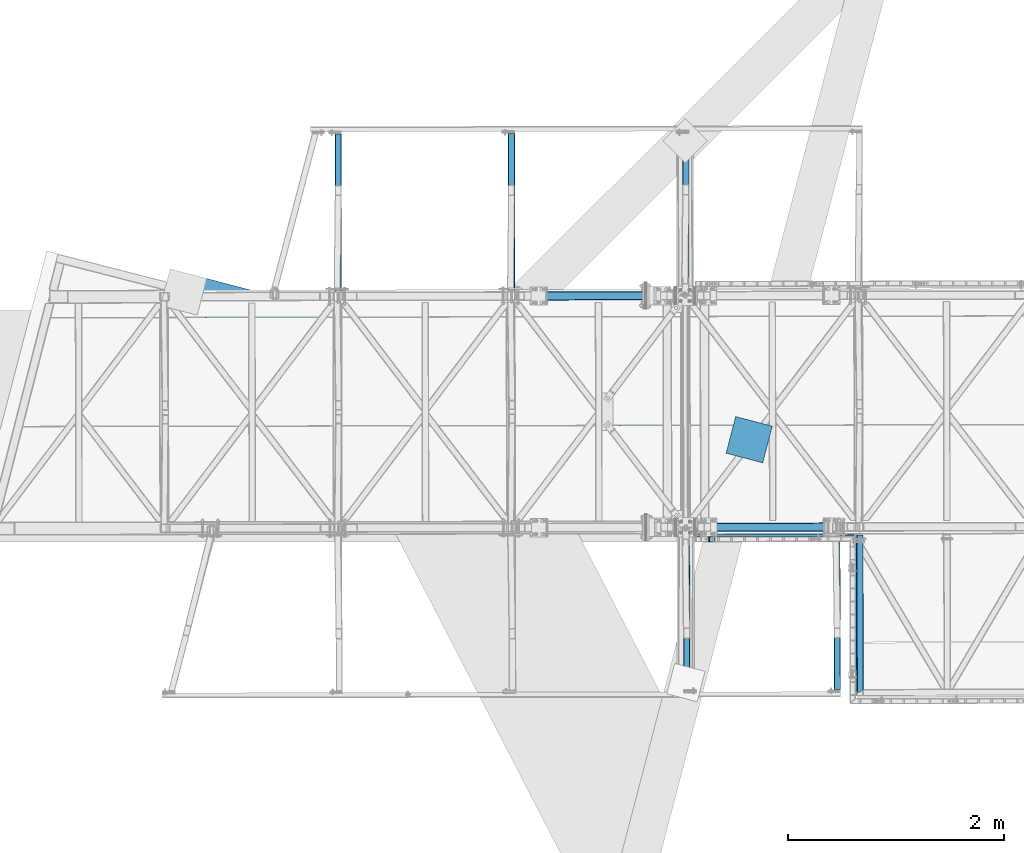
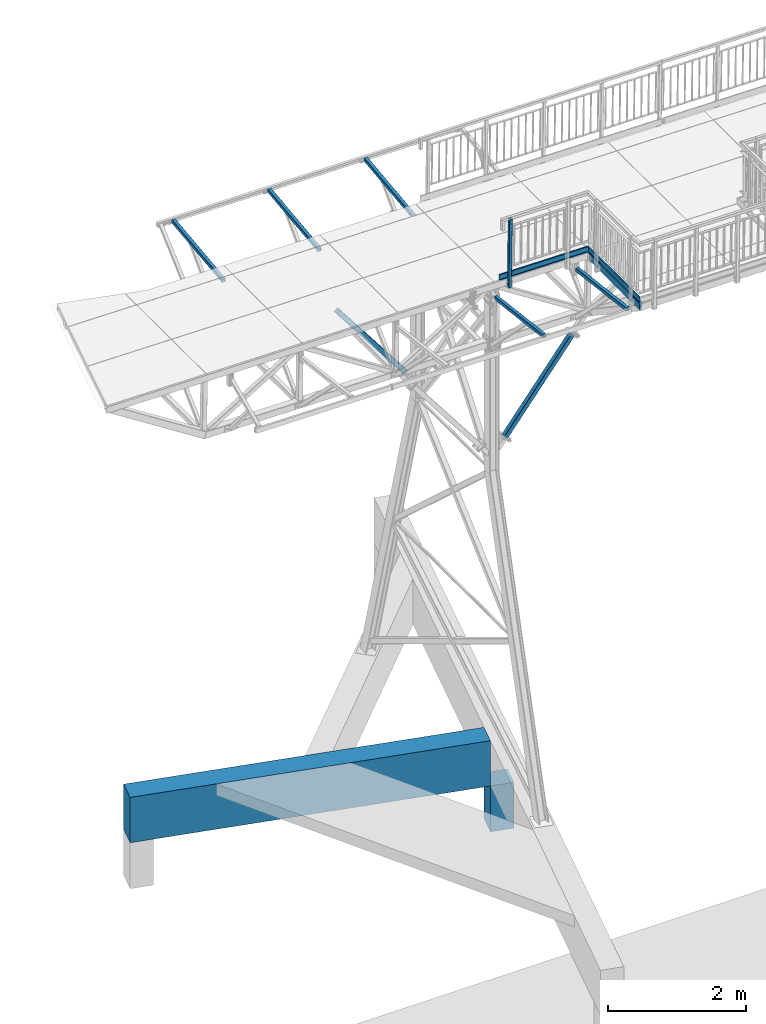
# One storey, part 16 of 169: 10 beams, 3 members, 13 elements without a shape of their own.
"""IFC2X3 building model written with IfcOpenShell, lengths in millimetres."""

from ifc_helpers import new_model, si_unit, frame, origin_with_axes, origin_2d_with_axis, place, context, subcontext, project, spatial, polyline, rectangle, hollow_rectangle, u_section, outline, extrude, boolean, clip, halfspace, material, type_object, element, aggregate, save


model = new_model("IFC2X3")

# Units and contexts
model_context = context("Model", 3, precision=1e-05, world=origin_with_axes())
body_context = subcontext(model_context, "Body", "Model", "MODEL_VIEW")
ifc_project = project(units=[si_unit("LENGTHUNIT", "METRE", prefix="MILLI"), si_unit("AREAUNIT", "SQUARE_METRE"), si_unit("VOLUMEUNIT", "CUBIC_METRE"), si_unit("MASSUNIT", "GRAM", prefix="KILO"), si_unit("TIMEUNIT", "SECOND"), si_unit("PLANEANGLEUNIT", "RADIAN"), si_unit("SOLIDANGLEUNIT", "STERADIAN"), si_unit("THERMODYNAMICTEMPERATUREUNIT", "DEGREE_CELSIUS"), si_unit("LUMINOUSINTENSITYUNIT", "LUMEN")], contexts=[model_context])

# Site, building, storey
site_placement = place(None, origin_with_axes())
site = spatial("IfcSite", under=ifc_project, at=site_placement, Name="Undefined", CompositionType="ELEMENT")
building_placement = place(site_placement, origin_with_axes())
building = spatial("IfcBuilding", under=site, at=building_placement, Name="Undefined", CompositionType="ELEMENT")
storey_placement = place(building_placement, origin_with_axes())
storey = spatial("IfcBuildingStorey", under=building, at=storey_placement, Name="Undefined", CompositionType="ELEMENT", Elevation=0.0)

# Assembly, beam
assembly_1_placement = place(storey_placement, origin_with_axes())
assembly_1 = element("IfcElementAssembly", 1, at=assembly_1_placement, inside=storey, Name="Steel Assembly", AssemblyPlace="NOTDEFINED", PredefinedType="RIGID_FRAME")
ifc_material_1 = material(Name="STEEL/S235JR")
beam_type_1 = type_object("IfcBeamType", Name="C100*20*2", PredefinedType="NOTDEFINED")
beam_1_placement = place(assembly_1_placement, frame((6207.24182146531, 41.5896078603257, 14015.3656210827), z_axis=(0.012713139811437, 2.3750999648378e-05, 0.999919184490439), x_axis=(0.9999174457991, 0.00186469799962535, -0.0127131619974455)))
beam_1 = element("IfcBeam", 2, at=beam_1_placement, type_object=beam_type_1, material=ifc_material_1, Name="KICK_PLATE", ObjectType="C100*20*2", context=body_context, shape_type="CSG", body=[
    boolean("DIFFERENCE", extrude(u_section(Depth=100.0, FlangeWidth=20.0, WebThickness=2.0, FlangeThickness=2.0, FilletRadius=3.0, at=origin_2d_with_axis()), frame((1492.49990028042, -1.71020088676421e-16, 1.81898940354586e-12), z_axis=(-1.0, -3.46944695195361e-18, -1.38777878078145e-17), x_axis=(1.73472347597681e-18, -1.0, 0.0)), (0.0, 0.0, 1.0), 1492.5), extrude(outline(polyline([(0.0, 0.0), (24.9999999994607, -1.85351467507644e-09), (24.9999999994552, 17.9999999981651), (-0.102804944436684, 17.9999999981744), (0.0, 0.0)])), frame((1467.49990028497, -9.99999996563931, -52.9999999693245), z_axis=(0.0, 0.0, 1.0), x_axis=(1.0, 0.0, 0.0)), (0.0, 0.0, 1.0), 106.0)),
])
aggregate(assembly_1, [beam_1])

assembly_2_placement = place(storey_placement, origin_with_axes())
assembly_2 = element("IfcElementAssembly", 3, at=assembly_2_placement, inside=storey, Name="Steel Assembly", AssemblyPlace="NOTDEFINED", PredefinedType="RIGID_FRAME")
beam_2_placement = place(assembly_2_placement, frame((7689.61001089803, 49.3540156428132, 13996.5183592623), z_axis=(0.012713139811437, 2.3750999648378e-05, 0.999919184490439), x_axis=(0.00186484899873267, -0.999998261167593, 4.28757666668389e-08)))
beam_2 = element("IfcBeam", 4, at=beam_2_placement, type_object=beam_type_1, material=ifc_material_1, Name="KICK_PLATE", ObjectType="C100*20*2", context=body_context, shape_type="SweptSolid", body=[
    extrude(u_section(Depth=100.0, FlangeWidth=20.0, WebThickness=2.0, FlangeThickness=2.0, FilletRadius=3.0, at=origin_2d_with_axis()), frame((1489.9999999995, 1.38994933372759e-16, -2.16919843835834e-18), z_axis=(-1.0, -3.46944695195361e-18, -1.38777878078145e-17), x_axis=(1.73472347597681e-18, -1.0, 0.0)), (0.0, 0.0, 1.0), 1490.0),
])
aggregate(assembly_2, [beam_2])

# Assembly, member
assembly_3_placement = place(storey_placement, origin_with_axes())
assembly_3 = element("IfcElementAssembly", 5, at=assembly_3_placement, inside=storey, Name="Steel Assembly", AssemblyPlace="NOTDEFINED", PredefinedType="RIGID_FRAME")
ifc_material_2 = material(Name="STEEL/S235")
member_type_1 = type_object("IfcMemberType", Name="SHS50*3", PredefinedType="NOTDEFINED")
member_1_placement = place(assembly_3_placement, frame((6356.27765665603, 6.86747332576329, 13933.4651135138), z_axis=(0.00186484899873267, -0.999998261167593, 4.28757666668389e-08), x_axis=(0.012713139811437, 2.3750999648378e-05, 0.999919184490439)))
member_1 = element("IfcMember", 6, at=member_1_placement, type_object=member_type_1, material=ifc_material_2, Name="STANCHION", ObjectType="SHS50*3", context=body_context, shape_type="Clipping", body=[
    clip(extrude(hollow_rectangle(XDim=50.0, YDim=50.0, WallThickness=3.0, InnerFilletRadius=3.0, OuterFilletRadius=6.0, at=origin_2d_with_axis()), frame((1090.00000000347, 0.0, -8.86050580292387e-16), z_axis=(-1.0, -3.46944695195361e-18, -1.38777878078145e-17), x_axis=(1.73472347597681e-18, -1.0, 0.0)), (0.0, 0.0, 1.0), 1210.0), halfspace(frame((-120.000000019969, -1025.00000000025, -5.14306819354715e-10), z_axis=(1.0, 0.0, 0.0), x_axis=(0.0, 0.0, 1.0)), True)),
])
aggregate(assembly_3, [member_1])

# Assembly, beam
assembly_4_placement = place(storey_placement, origin_with_axes())
assembly_4 = element("IfcElementAssembly", 7, at=assembly_4_placement, inside=storey, Name="Steel Assembly", AssemblyPlace="NOTDEFINED", PredefinedType="RIGID_FRAME")
ifc_material_3 = material(Name="STEEL/S355")
beam_type_2 = type_object("IfcBeamType", Name="SHS60*3", PredefinedType="NOTDEFINED")
beam_3_placement = place(assembly_4_placement, frame((6130.44044154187, 3.26926882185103, 13709.8379328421), z_axis=(-0.999917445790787, -0.00186469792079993, 0.0127131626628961), x_axis=(0.00334696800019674, -0.99305658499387, 0.117590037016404)))
beam_3 = element("IfcBeam", 8, at=beam_3_placement, type_object=beam_type_2, material=ifc_material_3, Name="BEAM", ObjectType="SHS60*3", context=body_context, shape_type="Clipping", body=[
    clip(clip(extrude(hollow_rectangle(XDim=60.0, YDim=60.0, WallThickness=3.0, InnerFilletRadius=3.0, OuterFilletRadius=6.0, at=origin_2d_with_axis()), frame((1399.95678614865, 1.79956110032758e-12, -3.03567237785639e-16), z_axis=(-1.0, -3.46944695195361e-18, -1.38777878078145e-17), x_axis=(1.73472347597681e-18, -1.0, 0.0)), (0.0, 0.0, 1.0), 1414.04), halfspace(frame((1399.95678614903, -30.0000000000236, -9.84437065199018e-09), z_axis=(-1.0, -3.46944695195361e-18, -1.38777878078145e-17), x_axis=(-2.54700353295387e-10, 0.0, -1.0)), True)), halfspace(frame((53.3139715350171, -30.0000003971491, 1.12529778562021e-06), z_axis=(0.74752907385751, 0.664229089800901, -8.48099297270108e-09), x_axis=(0.0, 0.0, 1.0)), True)),
])
aggregate(assembly_4, [beam_3])

assembly_5_placement = place(storey_placement, origin_with_axes())
assembly_5 = element("IfcElementAssembly", 9, at=assembly_5_placement, inside=storey, Name="Steel Assembly", AssemblyPlace="NOTDEFINED", PredefinedType="RIGID_FRAME")
beam_4_placement = place(assembly_5_placement, frame((7520.57249629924, 75.5108316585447, 13683.8564424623), z_axis=(-0.999917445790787, -0.00186469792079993, 0.0127131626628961), x_axis=(0.00334696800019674, -0.99305658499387, 0.117590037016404)))
beam_4 = element("IfcBeam", 10, at=beam_4_placement, type_object=beam_type_2, material=ifc_material_3, Name="BEAM", ObjectType="SHS60*3", context=body_context, shape_type="Clipping", body=[
    clip(clip(extrude(hollow_rectangle(XDim=60.0, YDim=60.0, WallThickness=3.0, InnerFilletRadius=3.0, OuterFilletRadius=6.0, at=origin_2d_with_axis()), frame((1470.09918379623, 3.65838053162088e-12, 0.0), z_axis=(-1.0, -3.46944695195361e-18, -1.38777878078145e-17), x_axis=(1.73472347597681e-18, -1.0, 0.0)), (0.0, 0.0, 1.0), 1471.63), halfspace(frame((1470.10105978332, 29.9999999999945, 1.26819941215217e-08), z_axis=(-0.999999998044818, 6.25329077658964e-05, 1.2350028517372e-10), x_axis=(0.0, 0.0, 1.0)), True)), halfspace(frame((9.53820160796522, 7.09405867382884e-11, -29.9999999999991), z_axis=(0.993061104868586, -0.117599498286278, -1.22644835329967e-10), x_axis=(-0.117599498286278, -0.993061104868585, 2.09305653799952e-10)), True)),
])
aggregate(assembly_5, [beam_4])

assembly_6_placement = place(storey_placement, origin_with_axes())
assembly_6 = element("IfcElementAssembly", 11, at=assembly_6_placement, inside=storey, Name="Steel Assembly", AssemblyPlace="NOTDEFINED", PredefinedType="RIGID_FRAME")
beam_5_placement = place(assembly_6_placement, frame((6126.02754792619, 2369.61922608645, 13709.8378310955), z_axis=(-0.999917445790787, -0.00186469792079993, 0.0127131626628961), x_axis=(-0.000356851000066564, 0.993062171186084, 0.117589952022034)))
beam_5 = element("IfcBeam", 12, at=beam_5_placement, type_object=beam_type_2, material=ifc_material_3, Name="BEAM", ObjectType="SHS60*3", context=body_context, shape_type="Clipping", body=[
    clip(clip(extrude(hollow_rectangle(XDim=60.0, YDim=60.0, WallThickness=3.0, InnerFilletRadius=3.0, OuterFilletRadius=6.0, at=origin_2d_with_axis()), frame((1399.48040998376, -1.81898940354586e-12, 1.81898940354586e-12), z_axis=(-1.0, -3.46944695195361e-18, -1.38777878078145e-17), x_axis=(1.73472347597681e-18, -1.0, 0.0)), (0.0, 0.0, 1.0), 1413.38), halfspace(frame((1399.48040996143, 30.0000000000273, 9.09494701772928e-13), z_axis=(-1.0, -3.46944695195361e-18, -1.38777878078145e-17), x_axis=(0.0, 0.0, 1.0)), True)), halfspace(frame((53.3139715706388, 30.0000004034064, 1.12297948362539e-06), z_axis=(0.747529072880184, -0.664229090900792, -8.8414034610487e-09), x_axis=(-2.54700353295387e-10, 0.0, -1.0)), True)),
])
aggregate(assembly_6, [beam_5])

assembly_7_placement = place(storey_placement, origin_with_axes())
assembly_7 = element("IfcElementAssembly", 13, at=assembly_7_placement, inside=storey, Name="Steel Assembly", AssemblyPlace="NOTDEFINED", PredefinedType="RIGID_FRAME")
beam_6_placement = place(assembly_7_placement, frame((2913.80261067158, 2293.50002305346, 13742.3750006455), z_axis=(-0.999917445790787, -0.00186469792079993, 0.0127131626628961), x_axis=(-0.000356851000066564, 0.993062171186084, 0.117589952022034)))
beam_6 = element("IfcBeam", 14, at=beam_6_placement, type_object=beam_type_2, material=ifc_material_3, Name="BEAM", ObjectType="SHS60*3", context=body_context, shape_type="Clipping", body=[
    clip(clip(extrude(hollow_rectangle(XDim=60.0, YDim=60.0, WallThickness=3.0, InnerFilletRadius=3.0, OuterFilletRadius=6.0, at=origin_2d_with_axis()), frame((1470.09918379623, 3.65838053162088e-12, 0.0), z_axis=(-1.0, -3.46944695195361e-18, -1.38777878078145e-17), x_axis=(1.73472347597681e-18, -1.0, 0.0)), (0.0, 0.0, 1.0), 1470.97), halfspace(frame((1470.09918307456, 30.0000000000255, 4.54747350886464e-13), z_axis=(-1.0, -3.46944695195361e-18, -1.38777878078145e-17), x_axis=(0.0, 0.0, 1.0)), True)), halfspace(frame((10.0213621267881, -1.63709046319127e-11, -29.9999999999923), z_axis=(0.99306110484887, 0.117599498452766, -6.01535472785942e-10), x_axis=(0.117599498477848, -0.9930611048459, -1.69175905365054e-09)), True)),
])
aggregate(assembly_7, [beam_6])

assembly_8_placement = place(storey_placement, origin_with_axes())
assembly_8 = element("IfcElementAssembly", 15, at=assembly_8_placement, inside=storey, Name="Steel Assembly", AssemblyPlace="NOTDEFINED", PredefinedType="RIGID_FRAME")
beam_7_placement = place(assembly_8_placement, frame((4515.18574309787, 2296.4863649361, 13722.0146769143), z_axis=(-0.999917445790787, -0.00186469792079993, 0.0127131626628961), x_axis=(-0.000356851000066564, 0.993062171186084, 0.117589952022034)))
beam_7 = element("IfcBeam", 16, at=beam_7_placement, type_object=beam_type_2, material=ifc_material_3, Name="BEAM", ObjectType="SHS60*3", context=body_context, shape_type="Clipping", body=[
    clip(clip(extrude(hollow_rectangle(XDim=60.0, YDim=60.0, WallThickness=3.0, InnerFilletRadius=3.0, OuterFilletRadius=6.0, at=origin_2d_with_axis()), frame((1470.09918379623, 3.65838053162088e-12, 0.0), z_axis=(-1.0, -3.46944695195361e-18, -1.38777878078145e-17), x_axis=(1.73472347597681e-18, -1.0, 0.0)), (0.0, 0.0, 1.0), 1470.97), halfspace(frame((1470.09918307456, 30.0000000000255, 4.54747350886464e-13), z_axis=(-1.0, -3.46944695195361e-18, -1.38777878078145e-17), x_axis=(0.0, 0.0, 1.0)), True)), halfspace(frame((10.0213621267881, -1.63709046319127e-11, -29.9999999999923), z_axis=(0.99306110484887, 0.117599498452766, -6.01535472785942e-10), x_axis=(0.117599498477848, -0.9930611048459, -1.69175905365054e-09)), True)),
])
aggregate(assembly_8, [beam_7])

assembly_9_placement = place(storey_placement, origin_with_axes())
assembly_9 = element("IfcElementAssembly", 17, at=assembly_9_placement, inside=storey, Name="Steel Assembly", AssemblyPlace="NOTDEFINED", PredefinedType="RIGID_FRAME")
beam_type_3 = type_object("IfcBeamType", Name="RHS120*60*3", PredefinedType="NOTDEFINED")
beam_8_placement = place(assembly_9_placement, frame((7732.80794813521, 59.4345825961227, 13855.9575788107), z_axis=(-0.012713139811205, -2.37511238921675e-05, -0.999919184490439), x_axis=(0.00186484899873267, -0.999998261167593, 4.28757666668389e-08)))
beam_8 = element("IfcBeam", 18, at=beam_8_placement, type_object=beam_type_3, material=ifc_material_3, Name="BEAM", ObjectType="RHS120*60*3", context=body_context, shape_type="Clipping", body=[
    clip(clip(extrude(hollow_rectangle(XDim=60.0, YDim=120.0, WallThickness=3.0, InnerFilletRadius=3.0, OuterFilletRadius=6.0, at=origin_2d_with_axis()), frame((1469.99999988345, -9.08994424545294e-13, 1.81899424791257e-12), z_axis=(-1.0, -3.46944695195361e-18, -1.38777878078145e-17), x_axis=(1.73472347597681e-18, -1.0, 0.0)), (0.0, 0.0, 1.0), 1455.0), halfspace(frame((1439.99999986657, -30.0000000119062, -1.35987647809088e-07), z_axis=(-0.707106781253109, 0.707106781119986, 1.80100347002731e-10), x_axis=(-2.54700353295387e-10, 0.0, -1.0)), True)), halfspace(frame((14.999999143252, -1.08593667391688e-09, -159.999999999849), z_axis=(-1.0, -3.46944695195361e-18, -1.38777878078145e-17), x_axis=(0.0, 1.0, 0.0)), False)),
])
aggregate(assembly_9, [beam_8])

# Assembly, member
assembly_10_placement = place(storey_placement, origin_with_axes())
assembly_10 = element("IfcElementAssembly", 19, at=assembly_10_placement, inside=storey, Name="Steel Assembly", AssemblyPlace="NOTDEFINED", PredefinedType="RIGID_FRAME")
member_type_2 = type_object("IfcMemberType", Name="K80/4", PredefinedType="NOTDEFINED")
member_2_placement = place(assembly_10_placement, frame((5911.15415061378, 2256.04129327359, 11114.7550917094), z_axis=(-0.792353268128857, -0.00147761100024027, -0.610060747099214), x_axis=(-0.610059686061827, -0.00113766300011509, 0.792354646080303)))
member_2 = element("IfcMember", 20, at=member_2_placement, type_object=member_type_2, material=ifc_material_3, Name="BEAM", ObjectType="K80/4", context=body_context, shape_type="Clipping", body=[
    clip(clip(extrude(hollow_rectangle(XDim=80.0, YDim=80.0, WallThickness=4.0, InnerFilletRadius=4.0, OuterFilletRadius=8.0, at=origin_2d_with_axis()), frame((1853.73526368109, -4.54666440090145e-13, -1.02902978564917e-13), z_axis=(-1.0, -3.46944695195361e-18, -1.38777878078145e-17), x_axis=(1.73472347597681e-18, -1.0, 0.0)), (0.0, 0.0, 1.0), 1837.24), halfspace(frame((1853.73526369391, 2.95585778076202e-11, -40.0000000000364), z_axis=(-1.0, -3.46944695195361e-18, -1.38777878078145e-17), x_axis=(0.0, 1.0, 0.0)), True)), halfspace(frame((16.5000003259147, 3.71528585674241e-10, -1000.00000000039), z_axis=(1.0, 0.0, 0.0), x_axis=(1.73472347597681e-18, -1.0, 0.0)), True)),
])
aggregate(assembly_10, [member_2])

assembly_11_placement = place(storey_placement, origin_with_axes())
assembly_11 = element("IfcElementAssembly", 21, at=assembly_11_placement, inside=storey, Name="Steel Assembly", AssemblyPlace="NOTDEFINED", PredefinedType="RIGID_FRAME")
member_3_placement = place(assembly_11_placement, frame((6334.39432653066, 116.826875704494, 11111.4446167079), z_axis=(-0.784458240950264, -0.00146288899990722, 0.620179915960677), x_axis=(0.620178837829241, 0.00115653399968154, 0.784459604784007)))
member_3 = element("IfcMember", 22, at=member_3_placement, type_object=member_type_2, material=ifc_material_3, Name="BEAM", ObjectType="K80/4", context=body_context, shape_type="Clipping", body=[
    clip(clip(extrude(hollow_rectangle(XDim=80.0, YDim=80.0, WallThickness=4.0, InnerFilletRadius=4.0, OuterFilletRadius=8.0, at=origin_2d_with_axis()), frame((1813.24287007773, 1.93082608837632e-16, -9.09494701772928e-13), z_axis=(-1.0, -3.46944695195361e-18, -1.38777878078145e-17), x_axis=(1.73472347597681e-18, -1.0, 0.0)), (0.0, 0.0, 1.0), 1796.74), halfspace(frame((1813.24287009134, 9.59232693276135e-12, -40.0000000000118), z_axis=(-1.0, -3.46944695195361e-18, -1.38777878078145e-17), x_axis=(0.0, 1.0, 0.0)), True)), halfspace(frame((16.5000000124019, -1.18376419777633e-11, -39.9999999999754), z_axis=(1.0, 0.0, 0.0), x_axis=(1.73472347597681e-18, -1.0, 0.0)), True)),
])
aggregate(assembly_11, [member_3])

# Assembly, beam
assembly_12_placement = place(storey_placement, origin_with_axes())
assembly_12 = element("IfcElementAssembly", 23, at=assembly_12_placement, inside=storey, Name="BEAM", AssemblyPlace="NOTDEFINED", PredefinedType="REINFORCEMENT_UNIT")
ifc_material_4 = material(Name="CONCRETE/C45/55")
beam_type_4 = type_object("IfcBeamType", Name="350*350", PredefinedType="NOTDEFINED")
beam_9_placement = place(assembly_12_placement, frame((6710.78884677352, 926.007382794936, 4480.41805558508), z_axis=(0.967563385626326, -0.252628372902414, 0.0), x_axis=(-2.54700353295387e-10, 0.0, -1.0)))
beam_9 = element("IfcBeam", 24, at=beam_9_placement, type_object=beam_type_4, material=ifc_material_4, Name="BEAM", ObjectType="350*350", context=body_context, shape_type="SweptSolid", body=[
    extrude(rectangle(XDim=350.0, YDim=350.0, at=origin_2d_with_axis()), frame((810.00000000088, 3.93634573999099e-21, 0.0), z_axis=(-1.0, -3.46944695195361e-18, -1.38777878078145e-17), x_axis=(1.73472347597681e-18, -1.0, 0.0)), (0.0, 0.0, 1.0), 810.0),
])
aggregate(assembly_12, [beam_9])

assembly_13_placement = place(storey_placement, origin_with_axes())
assembly_13 = element("IfcElementAssembly", 25, at=assembly_13_placement, inside=storey, Name="BEAM", AssemblyPlace="NOTDEFINED", PredefinedType="REINFORCEMENT_UNIT")
beam_type_5 = type_object("IfcBeamType", Name="800*350", PredefinedType="NOTDEFINED")
beam_10_placement = place(assembly_13_placement, frame((6541.46518792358, 970.217365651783, 4880.41802550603), z_axis=(0.0, 0.0, 1.0), x_axis=(-0.967563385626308, 0.252628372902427, -1.72000000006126e-07)))
beam_10 = element("IfcBeam", 26, at=beam_10_placement, type_object=beam_type_5, material=ifc_material_4, Name="BEAM", ObjectType="800*350", context=body_context, shape_type="SweptSolid", body=[
    extrude(rectangle(XDim=350.0, YDim=800.0, at=origin_2d_with_axis()), frame((5400.00000000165, 1.55843162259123e-13, -9.09494701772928e-13), z_axis=(-1.0, -3.46944695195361e-18, -1.38777878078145e-17), x_axis=(1.73472347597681e-18, -1.0, 0.0)), (0.0, 0.0, 1.0), 5400.0),
])
aggregate(assembly_13, [beam_10])

save(model, "model.ifc")
